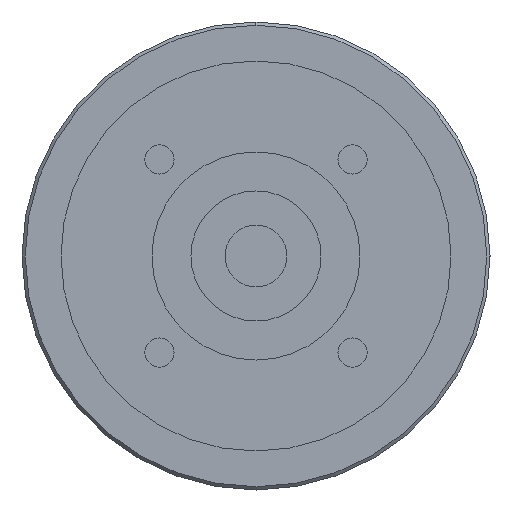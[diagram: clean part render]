
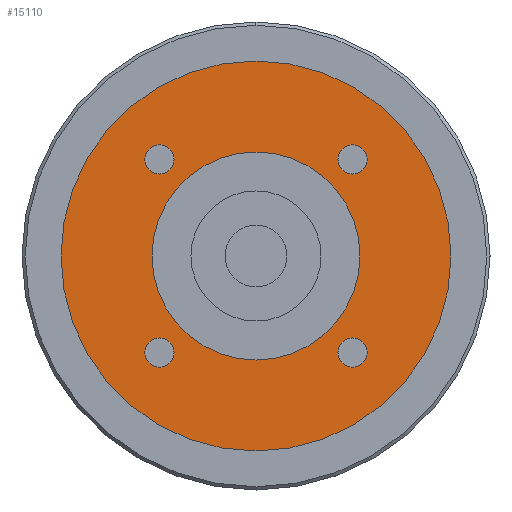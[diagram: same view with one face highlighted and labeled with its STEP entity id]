
A CAD part, left-side view. The second image highlights one B-rep face of the part: STEP entity #15110.
In plain terms, the highlighted planar face has unit normal (-1, 0, 0) as drawn and (0, 0, -1) by its records, which use the part's own axes.
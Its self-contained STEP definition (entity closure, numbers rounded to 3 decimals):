
#11890=CARTESIAN_POINT('',(0.,0.,
-91.));
#11900=DIRECTION('',(0.,0.,1.));
#11910=DIRECTION('',(0.,-1.,0.));
#11920=AXIS2_PLACEMENT_3D('',#11890,#11900,#11910);
#11930=CIRCLE('',#11920,16.);
#11940=CARTESIAN_POINT('',(0.,-16.,-91.));
#11950=VERTEX_POINT('',#11940);
#11960=CARTESIAN_POINT('',(16.,0.,-91.));
#11970=VERTEX_POINT('',#11960);
#11980=EDGE_CURVE('',#11950,#11970,#11930,.T.);
#12210=CARTESIAN_POINT('',(-16.,0.,-91.));
#12220=VERTEX_POINT('',#12210);
#12250=EDGE_CURVE('',#12220,#11950,#11930,.T.);
#12390=CARTESIAN_POINT('',(-12.599,-14.849,-91.));
#12400=VERTEX_POINT('',#12390);
#12580=CARTESIAN_POINT('',(-17.099,-14.849,-91.));
#12590=VERTEX_POINT('',#12580);
#12620=CARTESIAN_POINT('',(-14.849,-14.849,-91.));
#12630=DIRECTION('',(0.,0.,-1.));
#12640=DIRECTION('',(0.,-1.,0.));
#12650=AXIS2_PLACEMENT_3D('',#12620,#12630,#12640);
#12660=CIRCLE('',#12650,2.25);
#12670=CARTESIAN_POINT('',(-14.849,-17.099,-91.));
#12680=VERTEX_POINT('',#12670);
#12690=EDGE_CURVE('',#12680,#12590,#12660,.T.);
#12710=EDGE_CURVE('',#12400,#12680,#12660,.T.);
#14040=CARTESIAN_POINT('',(30.,0.,-91.));
#14050=VERTEX_POINT('',#14040);
#14080=CARTESIAN_POINT('',(0.,0.,
-91.));
#14090=DIRECTION('',(0.,0.,1.));
#14100=DIRECTION('',(0.,-1.,0.));
#14110=AXIS2_PLACEMENT_3D('',#14080,#14090,#14100);
#14120=CIRCLE('',#14110,30.);
#14130=CARTESIAN_POINT('',(0.,-30.,-91.));
#14140=VERTEX_POINT('',#14130);
#14150=EDGE_CURVE('',#14140,#14050,#14120,.T.);
#14170=CARTESIAN_POINT('',(-30.,0.,-91.));
#14180=VERTEX_POINT('',#14170);
#14190=EDGE_CURVE('',#14180,#14140,#14120,.T.);
#14310=CARTESIAN_POINT('',(0.,0.,
-91.));
#14320=DIRECTION('',(0.,0.,1.));
#14330=DIRECTION('',(-1.,0.,0.));
#14340=AXIS2_PLACEMENT_3D('',#14310,#14320,#14330);
#14350=PLANE('',#14340);
#14360=CARTESIAN_POINT('',(14.849,-14.849,-91.));
#14370=DIRECTION('',(0.,0.,-1.));
#14380=DIRECTION('',(1.,0.,0.));
#14390=AXIS2_PLACEMENT_3D('',#14360,#14370,#14380);
#14400=CIRCLE('',#14390,2.25);
#14410=CARTESIAN_POINT('',(17.099,-14.849,-91.));
#14420=VERTEX_POINT('',#14410);
#14430=CARTESIAN_POINT('',(14.849,-17.099,-91.));
#14440=VERTEX_POINT('',#14430);
#14450=EDGE_CURVE('',#14420,#14440,#14400,.T.);
#14460=ORIENTED_EDGE('',*,*,#14450,.F.);
#14470=CARTESIAN_POINT('',(14.849,-12.599,-91.));
#14480=VERTEX_POINT('',#14470);
#14490=EDGE_CURVE('',#14440,#14480,#14400,.T.);
#14500=ORIENTED_EDGE('',*,*,#14490,.F.);
#14510=EDGE_CURVE('',#14480,#14420,#14400,.T.);
#14520=ORIENTED_EDGE('',*,*,#14510,.F.);
#14530=EDGE_LOOP('',(#14520,#14500,#14460));
#14540=FACE_BOUND('',#14530,.T.);
#14550=CARTESIAN_POINT('',(14.849,14.849,-91.));
#14560=DIRECTION('',(0.,0.,-1.));
#14570=DIRECTION('',(0.,1.,0.));
#14580=AXIS2_PLACEMENT_3D('',#14550,#14560,#14570);
#14590=CIRCLE('',#14580,2.25);
#14600=CARTESIAN_POINT('',(14.849,17.099,-91.));
#14610=VERTEX_POINT('',#14600);
#14620=CARTESIAN_POINT('',(17.099,14.849,-91.));
#14630=VERTEX_POINT('',#14620);
#14640=EDGE_CURVE('',#14610,#14630,#14590,.T.);
#14650=ORIENTED_EDGE('',*,*,#14640,.F.);
#14660=CARTESIAN_POINT('',(12.599,14.849,-91.));
#14670=VERTEX_POINT('',#14660);
#14680=EDGE_CURVE('',#14630,#14670,#14590,.T.);
#14690=ORIENTED_EDGE('',*,*,#14680,.F.);
#14700=EDGE_CURVE('',#14670,#14610,#14590,.T.);
#14710=ORIENTED_EDGE('',*,*,#14700,.F.);
#14720=EDGE_LOOP('',(#14710,#14690,#14650));
#14730=FACE_BOUND('',#14720,.T.);
#14740=CARTESIAN_POINT('',(-14.849,14.849,-91.));
#14750=DIRECTION('',(0.,0.,-1.));
#14760=DIRECTION('',(-1.,0.,0.));
#14770=AXIS2_PLACEMENT_3D('',#14740,#14750,#14760);
#14780=CIRCLE('',#14770,2.25);
#14790=CARTESIAN_POINT('',(-17.099,14.849,-91.));
#14800=VERTEX_POINT('',#14790);
#14810=CARTESIAN_POINT('',(-14.849,17.099,-91.));
#14820=VERTEX_POINT('',#14810);
#14830=EDGE_CURVE('',#14800,#14820,#14780,.T.);
#14840=ORIENTED_EDGE('',*,*,#14830,.F.);
#14850=CARTESIAN_POINT('',(-14.849,12.599,-91.));
#14860=VERTEX_POINT('',#14850);
#14870=EDGE_CURVE('',#14820,#14860,#14780,.T.);
#14880=ORIENTED_EDGE('',*,*,#14870,.F.);
#14890=EDGE_CURVE('',#14860,#14800,#14780,.T.);
#14900=ORIENTED_EDGE('',*,*,#14890,.F.);
#14910=EDGE_LOOP('',(#14900,#14880,#14840));
#14920=FACE_BOUND('',#14910,.T.);
#14930=ORIENTED_EDGE('',*,*,#12690,.F.);
#14940=EDGE_CURVE('',#12590,#12400,#12660,.T.);
#14950=ORIENTED_EDGE('',*,*,#14940,.F.);
#14960=ORIENTED_EDGE('',*,*,#12710,.F.);
#14970=EDGE_LOOP('',(#14960,#14950,#14930));
#14980=FACE_BOUND('',#14970,.T.);
#14990=ORIENTED_EDGE('',*,*,#14150,.F.);
#15000=EDGE_CURVE('',#14050,#14180,#14120,.T.);
#15010=ORIENTED_EDGE('',*,*,#15000,.F.);
#15020=ORIENTED_EDGE('',*,*,#14190,.F.);
#15030=EDGE_LOOP('',(#15020,#15010,#14990));
#15040=FACE_OUTER_BOUND('',#15030,.T.);
#15050=EDGE_CURVE('',#11970,#12220,#11930,.T.);
#15060=ORIENTED_EDGE('',*,*,#15050,.T.);
#15070=ORIENTED_EDGE('',*,*,#11980,.T.);
#15080=ORIENTED_EDGE('',*,*,#12250,.T.);
#15090=EDGE_LOOP('',(#15080,#15070,#15060));
#15100=FACE_BOUND('',#15090,.T.);
#15110=ADVANCED_FACE('',(#14540,#14730,#14920,#14980,#15040,#15100),
#14350,.F.);
